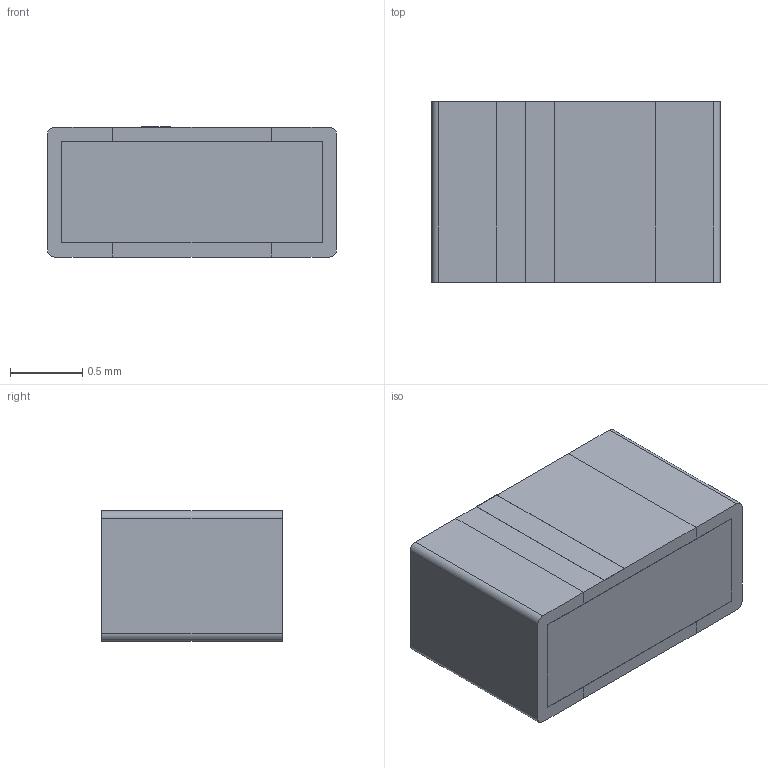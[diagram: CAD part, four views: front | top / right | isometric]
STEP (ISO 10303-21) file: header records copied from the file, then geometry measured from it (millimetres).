
FILE_DESCRIPTION (( 'STEP AP214' ), '1' );
FILE_NAME ( 'DIOC200X125X90L45.STEP', '2021-10-06T06:48:59', ( '' ), ( '' ), '', '©2017 PCB Libraries, Inc.', '' );
FILE_SCHEMA (( 'AUTOMOTIVE_DESIGN' ));
Length unit declared in the file: millimetre
Products named in the file (1): DIOC200X125X90L45
Bounding box: 2 x 1.25 x 0.9 mm (x, y, z)
Volume: 2.2 mm3; surface area: 24.7 mm2
Topology: 6 solids, 6 shells, 48 faces, 108 edges, 72 vertices
Faces by surface type: plane 44, cylinder 4
Entity records: 1522 total; most frequent: CARTESIAN_POINT 229, ORIENTED_EDGE 216, DIRECTION 214, EDGE_CURVE 108, VECTOR 100, LINE 100, VERTEX_POINT 72, AXIS2_PLACEMENT_3D 57
